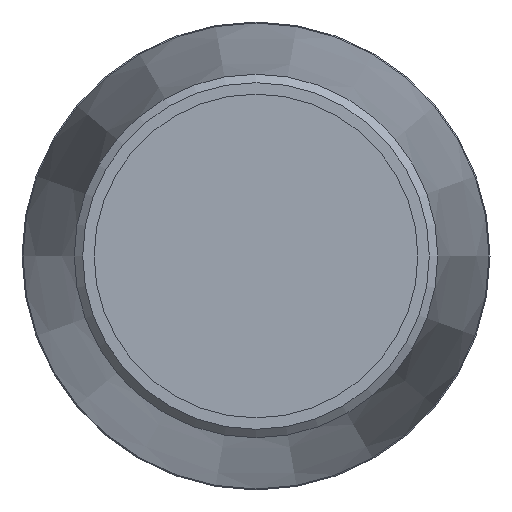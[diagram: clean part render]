
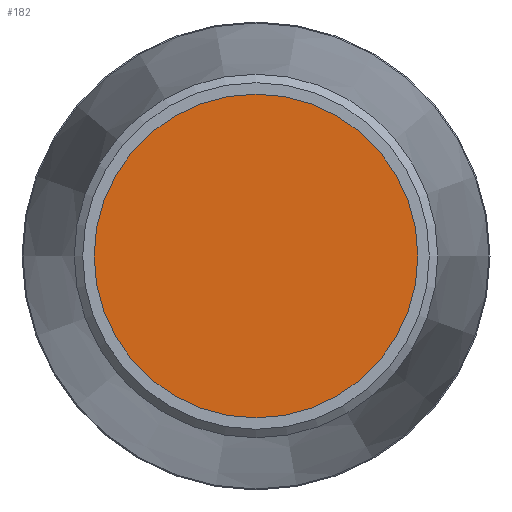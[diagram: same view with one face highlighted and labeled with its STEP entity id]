
A CAD part, left-side view. The second image highlights one B-rep face of the part: STEP entity #182.
In plain terms, the highlighted planar face has unit normal (-1, 0, 0).
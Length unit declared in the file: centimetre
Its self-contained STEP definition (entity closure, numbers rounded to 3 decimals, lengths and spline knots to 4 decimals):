
#20=PLANE('',#211);
#45=FACE_OUTER_BOUND('',#70,.T.);
#70=EDGE_LOOP('',(#140));
#88=CIRCLE('',#210,4.15);
#102=VERTEX_POINT('',#311);
#116=EDGE_CURVE('',#102,#102,#88,.T.);
#140=ORIENTED_EDGE('',*,*,#116,.T.);
#182=ADVANCED_FACE('',(#45),#20,.T.);
#210=AXIS2_PLACEMENT_3D('',#312,#263,#264);
#211=AXIS2_PLACEMENT_3D('',#313,#265,#266);
#263=DIRECTION('center_axis',(-1.,0.,0.));
#264=DIRECTION('ref_axis',(0.,0.,1.));
#265=DIRECTION('center_axis',(-1.,0.,0.));
#266=DIRECTION('ref_axis',(0.,0.,1.));
#311=CARTESIAN_POINT('',(-24.4,-4.15,0.));
#312=CARTESIAN_POINT('Origin',(-24.4,0.,0.));
#313=CARTESIAN_POINT('Origin',(-24.4,0.,0.));
